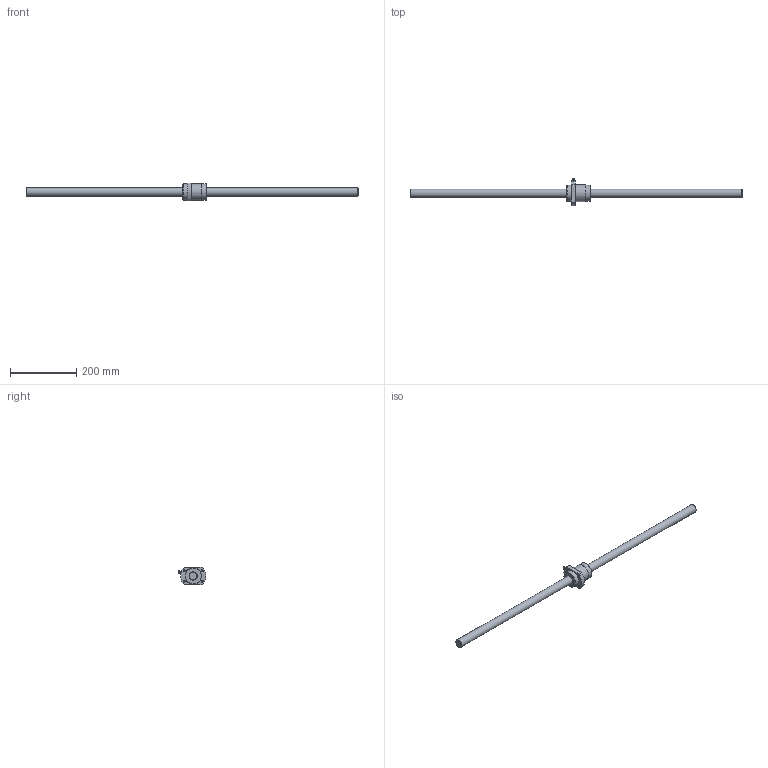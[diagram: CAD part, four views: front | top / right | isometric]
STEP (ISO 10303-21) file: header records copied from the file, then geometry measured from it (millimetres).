
FILE_DESCRIPTION((''),'2;1');
FILE_NAME('D:\製品 (図面)\カタログ用3D\ネジ関連\STEP形式\RBSW\RBSW2550-1000.stp','2010-06-02T14:47:17',('Tsuchiya'),(''),'Autodesk Inventor 10','Autodesk Inventor 10','');
FILE_SCHEMA(('AUTOMOTIVE_DESIGN { 1 0 10303 214 1 1 1 1 }'));
Length unit declared in the file: millimetre
Products named in the file (3): RBSW2550-1000; RBSW2550-10001; RBSW2550-10002
Assembly tree (2 placements, depth 2):
  RBSW2550-1000
    RBSW2550-10001
    RBSW2550-10002
Bounding box: 1000 x 83.26 x 54 mm (x, y, z)
Volume: 612871.2 mm3; surface area: 104273.7 mm2
Topology: 3 solids, 3 shells, 36 faces, 76 edges, 49 vertices
Faces by surface type: plane 12, cylinder 8, cone 7, bspline 6, sphere 3
Full cylindrical faces by diameter (mm): 7 x1, 25 x2, 49 x2, 50 x1
Entity records: 1026 total; most frequent: CARTESIAN_POINT 300, DIRECTION 150, ORIENTED_EDGE 92, AXIS2_PLACEMENT_3D 70, EDGE_LOOP 70, EDGE_CURVE 46, VERTEX_POINT 40, CIRCLE 36
